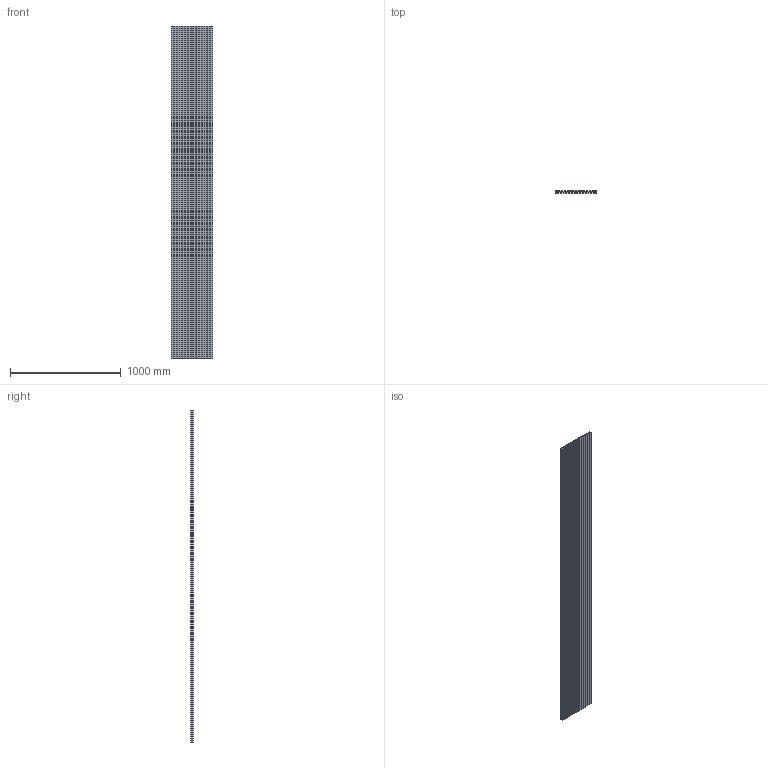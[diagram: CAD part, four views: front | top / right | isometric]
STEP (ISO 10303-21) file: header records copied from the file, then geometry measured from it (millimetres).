
FILE_DESCRIPTION (( 'STEP AP203' ), '1' );
FILE_NAME ('T-Nuten-Platte - PT 25 B375 - ArtNr 201020 3000.STEP', '2013-02-07T09:18:37', ( 'test' ), ( 'Microsoft' ), 'SwSTEP 2.0', 'SolidWorks 2012', '' );
FILE_SCHEMA (( 'CONFIG_CONTROL_DESIGN' ));
Length unit declared in the file: millimetre
Products named in the file (1): T-Nuten-Platte - PT 25 B375 - ArtNr 201020 3000
Bounding box: 375 x 20 x 3000 mm (x, y, z)
Volume: 15230663.4 mm3; surface area: 4160600.2 mm2
Topology: 1 solids, 1 shells, 272 faces, 810 edges, 540 vertices
Faces by surface type: plane 216, cylinder 56
Entity records: 9123 total; most frequent: CARTESIAN_POINT 1623, ORIENTED_EDGE 1620, DIRECTION 1468, EDGE_CURVE 810, VECTOR 698, LINE 698, VERTEX_POINT 540, AXIS2_PLACEMENT_3D 385
